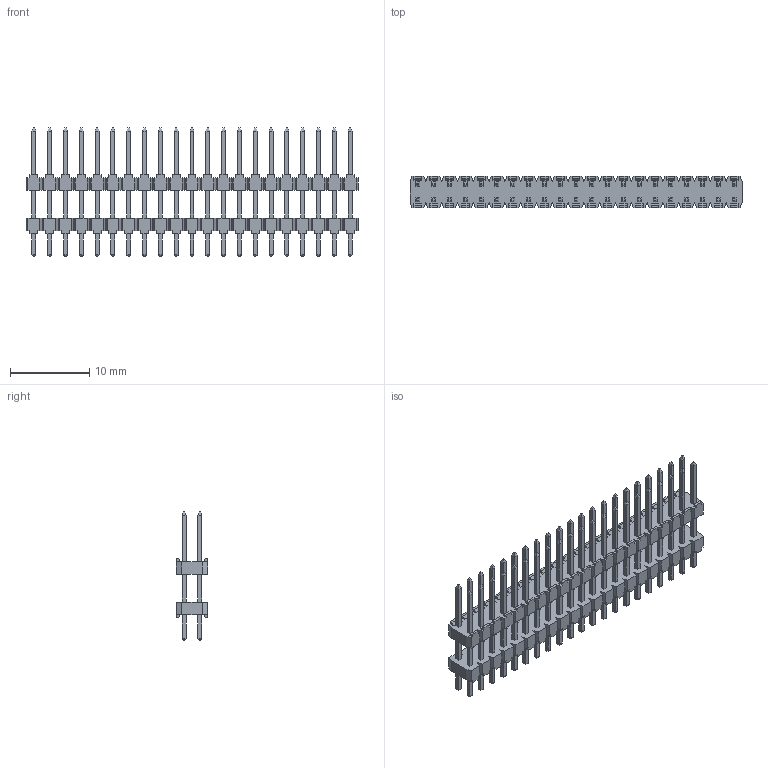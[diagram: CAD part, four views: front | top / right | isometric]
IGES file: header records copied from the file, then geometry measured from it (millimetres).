
Global section: file name: N:\GOLF_VI_2mm_UGII\9514XX_806XX06_AR\951442-8061506-AR.igs; native system: NX V3.0; preprocessor: UGS NX IGES V4.0; date: 20070314.101754; units: millimetre
Bounding box: 42 x 4 x 16.2 mm (x, y, z)
Surface area: 2184.1 mm2 (no closed solid volume)
Topology: 0 solids, 0 shells, 1520 faces, 7921 edges, 7921 vertices
Faces by surface type: bspline 1520
